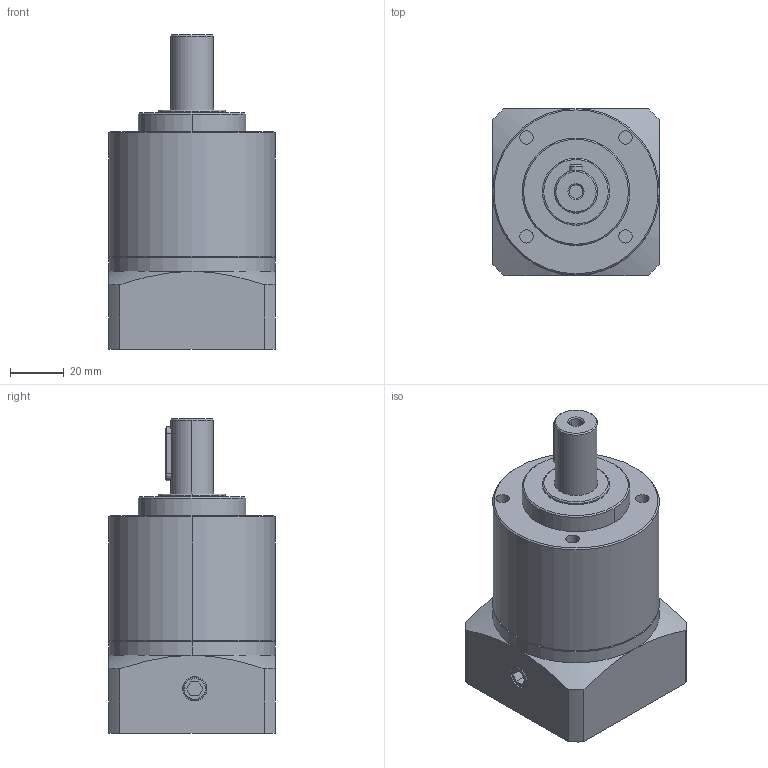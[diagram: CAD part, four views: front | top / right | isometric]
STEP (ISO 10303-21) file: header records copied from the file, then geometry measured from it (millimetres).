
FILE_DESCRIPTION((''),'2;1');
FILE_NAME('01-0_ASM','2017-04-23T',('Administrator'),(''),'PRO/ENGINEER BY PARAMETRIC TECHNOLOGY CORPORATION, 2010280','PRO/ENGINEER BY PARAMETRIC TECHNOLOGY CORPORATION, 2010280','');
FILE_SCHEMA(('CONFIG_CONTROL_DESIGN'));
Length unit declared in the file: millimetre
Products named in the file (10): 01-1; 01-2; 01-3; 01-04; 01-06; 01-07; 01-08_ASM; 01-05; 01-08; 01-0_ASM
Assembly tree (13 placements, depth 3):
  01-0_ASM
    01-1
    01-2
    01-3
    01-04  x2
    01-08_ASM
      01-06
      01-07
    01-05
    01-08  x4
Bounding box: 62 x 62 x 117 mm (x, y, z)
Volume: 251402.4 mm3; surface area: 51912.3 mm2
Topology: 12 solids, 12 shells, 246 faces, 536 edges, 344 vertices
Faces by surface type: plane 121, cylinder 84, cone 39, torus 2
Entity records: 5802 total; most frequent: CARTESIAN_POINT 1130, DIRECTION 1031, ORIENTED_EDGE 848, EDGE_CURVE 424, AXIS2_PLACEMENT_3D 411, VERTEX_POINT 272, EDGE_LOOP 228, VECTOR 209
